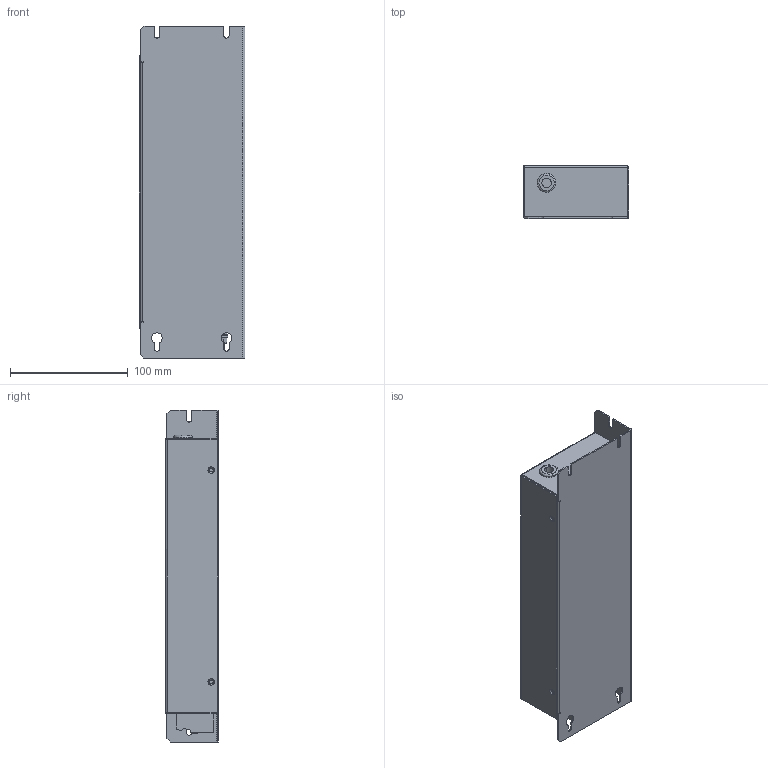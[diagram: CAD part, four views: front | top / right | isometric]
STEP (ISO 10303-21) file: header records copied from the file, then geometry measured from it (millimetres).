
FILE_DESCRIPTION (( 'STEP AP203' ), '1' );
FILE_NAME ('M400-3-1.STEP', '2016-09-07T08:35:38', ( '' ), ( '' ), 'SwSTEP 2.0', 'SolidWorks 2016', '' );
FILE_SCHEMA (( 'CONFIG_CONTROL_DESIGN' ));
Length unit declared in the file: millimetre
Products named in the file (10): Grommet_15080; hex nut style 1_am_B18.2.4.1M - Hex nut, Style 1,  M5 x 0.8 --D-N; M400-3-1; hex screw_am_B18.6.7M - M5 x 0.8 x 13 Indented HHMS --13S; M5x13 Earth post; M400-3-1-back; M4 Hank 0.6mm; flat washer narrow_am_B18.22M - Plain washer, 5 mm, narrow; M400-3-1-box; VDFK-6
Assembly tree (16 placements, depth 3):
  M400-3-1
    M400-3-1-back
    M400-3-1-box
    M4 Hank 0.6mm  x6
    Grommet_15080
    M5x13 Earth post
      hex screw_am_B18.6.7M - M5 x 0.8 x 13 Indented HHMS --13S
      flat washer narrow_am_B18.22M - Plain washer, 5 mm, narrow  x2
      hex nut style 1_am_B18.2.4.1M - Hex nut, Style 1,  M5 x 0.8 --D-N
    VDFK-6  x2
Bounding box: 90 x 45 x 282 mm (x, y, z)
Volume: 105918.7 mm3; surface area: 167577.5 mm2
Topology: 15 solids, 15 shells, 516 faces, 1234 edges, 766 vertices
Faces by surface type: plane 209, cylinder 167, cone 132, bspline 4, torus 4
Entity records: 12881 total; most frequent: CARTESIAN_POINT 2287, DIRECTION 2085, ORIENTED_EDGE 1874, EDGE_CURVE 937, AXIS2_PLACEMENT_3D 796, VERTEX_POINT 582, VECTOR 493, LINE 493
